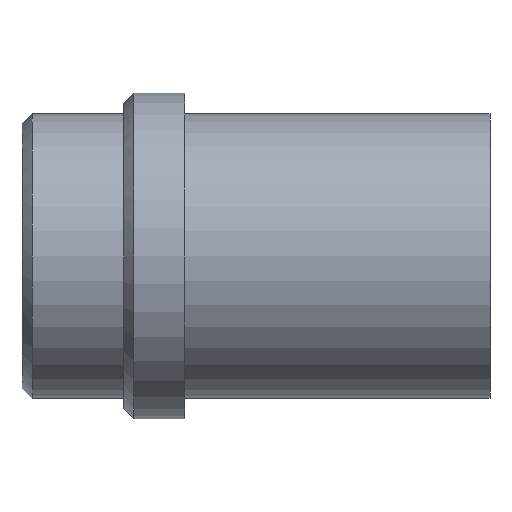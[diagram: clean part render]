
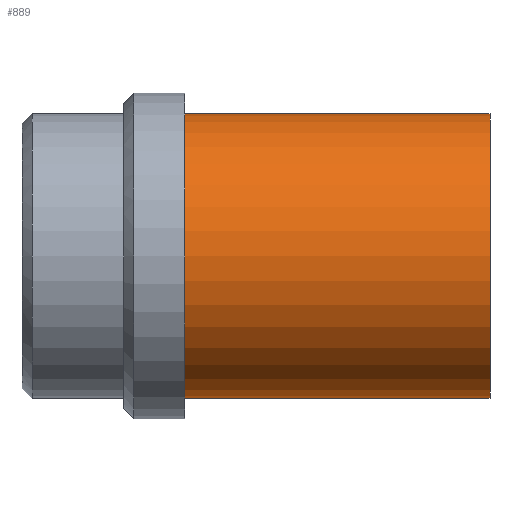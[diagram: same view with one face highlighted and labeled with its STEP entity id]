
A CAD part, front view. The second image highlights one B-rep face of the part: STEP entity #889.
In plain terms, the highlighted cylindrical face has radius 14 mm (diameter 28 mm), a partial arc.
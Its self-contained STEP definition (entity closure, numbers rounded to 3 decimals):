
#723=CARTESIAN_POINT('Vertex',(30.,0.,14.)) ;
#726=CARTESIAN_POINT('Axis2P3D Location',(30.,0.,0.)) ;
#730=CARTESIAN_POINT('Vertex',(30.,-14.,0.)) ;
#733=CARTESIAN_POINT('Axis2P3D Location',(30.,0.,0.)) ;
#737=CARTESIAN_POINT('Vertex',(30.,0.,-14.)) ;
#829=CARTESIAN_POINT('Line Origine',(30.,0.,14.)) ;
#833=CARTESIAN_POINT('Vertex',(0.,0.,14.)) ;
#836=CARTESIAN_POINT('Line Origine',(30.,0.,-14.)) ;
#840=CARTESIAN_POINT('Vertex',(0.,0.,-14.)) ;
#864=CARTESIAN_POINT('Axis2P3D Location',(30.,0.,0.)) ;
#869=CARTESIAN_POINT('Axis2P3D Location',(0.,0.,0.)) ;
#873=CARTESIAN_POINT('Vertex',(0.,-14.,0.)) ;
#876=CARTESIAN_POINT('Axis2P3D Location',(0.,0.,0.)) ;
#727=DIRECTION('Axis2P3D Direction',(1.,0.,-0.)) ;
#734=DIRECTION('Axis2P3D Direction',(1.,0.,-0.)) ;
#830=DIRECTION('Vector Direction',(-1.,0.,0.)) ;
#837=DIRECTION('Vector Direction',(-1.,0.,0.)) ;
#865=DIRECTION('Axis2P3D Direction',(-1.,-0.,-0.)) ;
#866=DIRECTION('Axis2P3D XDirection',(0.,0.,-1.)) ;
#870=DIRECTION('Axis2P3D Direction',(-1.,-0.,-0.)) ;
#877=DIRECTION('Axis2P3D Direction',(-1.,-0.,-0.)) ;
#728=AXIS2_PLACEMENT_3D('Circle Axis2P3D',#726,#727,$) ;
#735=AXIS2_PLACEMENT_3D('Circle Axis2P3D',#733,#734,$) ;
#867=AXIS2_PLACEMENT_3D('Cylinder Axis2P3D',#864,#865,#866) ;
#871=AXIS2_PLACEMENT_3D('Circle Axis2P3D',#869,#870,$) ;
#878=AXIS2_PLACEMENT_3D('Circle Axis2P3D',#876,#877,$) ;
#882=ORIENTED_EDGE('',*,*,#842,.T.) ;
#883=ORIENTED_EDGE('',*,*,#739,.F.) ;
#884=ORIENTED_EDGE('',*,*,#732,.F.) ;
#885=ORIENTED_EDGE('',*,*,#835,.T.) ;
#886=ORIENTED_EDGE('',*,*,#875,.T.) ;
#887=ORIENTED_EDGE('',*,*,#880,.T.) ;
#831=VECTOR('Line Direction',#830,1.) ;
#838=VECTOR('Line Direction',#837,1.) ;
#889=ADVANCED_FACE('358-20X46',(#888),#868,.T.) ;
#729=CIRCLE('generated circle',#728,14.) ;
#736=CIRCLE('generated circle',#735,14.) ;
#872=CIRCLE('generated circle',#871,14.) ;
#879=CIRCLE('generated circle',#878,14.) ;
#868=CYLINDRICAL_SURFACE('generated cylinder',#867,14.) ;
#732=EDGE_CURVE('',#724,#731,#729,.T.) ;
#739=EDGE_CURVE('',#731,#738,#736,.T.) ;
#835=EDGE_CURVE('',#724,#834,#832,.T.) ;
#842=EDGE_CURVE('',#841,#738,#839,.F.) ;
#875=EDGE_CURVE('',#834,#874,#872,.F.) ;
#880=EDGE_CURVE('',#874,#841,#879,.F.) ;
#881=EDGE_LOOP('',(#882,#883,#884,#885,#886,#887)) ;
#888=FACE_OUTER_BOUND('',#881,.T.) ;
#832=LINE('Line',#829,#831) ;
#839=LINE('Line',#836,#838) ;
#724=VERTEX_POINT('',#723) ;
#731=VERTEX_POINT('',#730) ;
#738=VERTEX_POINT('',#737) ;
#834=VERTEX_POINT('',#833) ;
#841=VERTEX_POINT('',#840) ;
#874=VERTEX_POINT('',#873) ;
